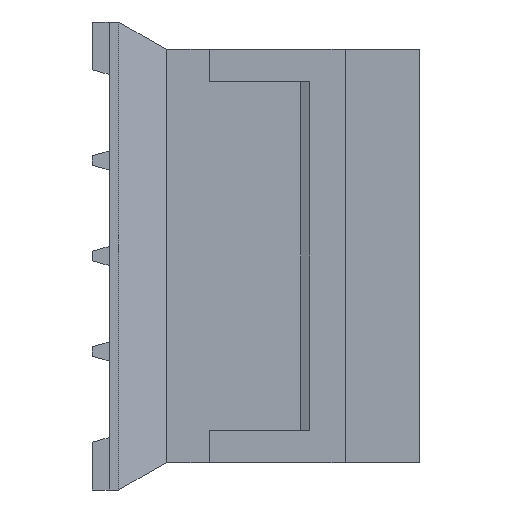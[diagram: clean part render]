
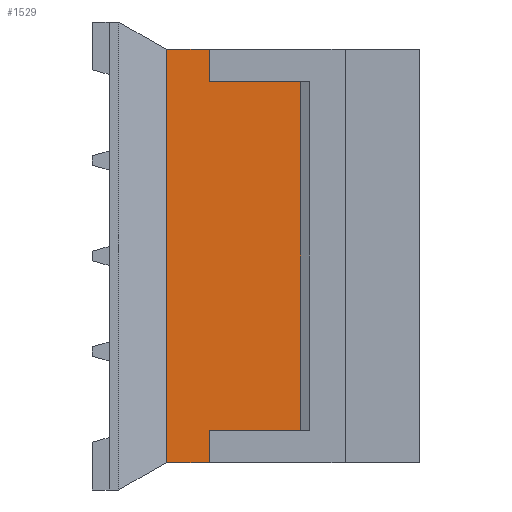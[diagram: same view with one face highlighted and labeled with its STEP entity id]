
A CAD part, left-side view. The second image highlights one B-rep face of the part: STEP entity #1529.
In plain terms, the highlighted planar face has unit normal (-1, 0, 0).
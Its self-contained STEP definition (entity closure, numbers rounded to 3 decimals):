
#209=DIRECTION('',(0.,0.,1.));
#210=VECTOR('',#209,8.65);
#211=CARTESIAN_POINT('',(0.,5.3,-9.225));
#212=LINE('',#211,#210);
#213=DIRECTION('',(0.,0.,1.));
#214=VECTOR('',#213,7.3);
#215=CARTESIAN_POINT('',(0.,2.488,-8.55));
#216=LINE('',#215,#214);
#221=DIRECTION('',(0.,1.,0.));
#222=VECTOR('',#221,1.912);
#223=CARTESIAN_POINT('',(0.,2.488,-1.25));
#224=LINE('',#223,#222);
#237=DIRECTION('',(0.,0.,1.));
#238=VECTOR('',#237,0.675);
#239=CARTESIAN_POINT('',(0.,4.4,-1.25));
#240=LINE('',#239,#238);
#253=DIRECTION('',(0.,1.,0.));
#254=VECTOR('',#253,0.9);
#255=CARTESIAN_POINT('',(0.,4.4,-0.575));
#256=LINE('',#255,#254);
#321=DIRECTION('',(0.,-1.,0.));
#322=VECTOR('',#321,0.9);
#323=CARTESIAN_POINT('',(0.,5.3,-9.225));
#324=LINE('',#323,#322);
#445=DIRECTION('',(0.,0.,1.));
#446=VECTOR('',#445,0.675);
#447=CARTESIAN_POINT('',(0.,4.4,-9.225));
#448=LINE('',#447,#446);
#457=DIRECTION('',(0.,-1.,0.));
#458=VECTOR('',#457,1.912);
#459=CARTESIAN_POINT('',(0.,4.4,-8.55));
#460=LINE('',#459,#458);
#797=CARTESIAN_POINT('',(0.,5.3,-0.575));
#798=VERTEX_POINT('',#797);
#967=CARTESIAN_POINT('',(0.,5.3,-9.225));
#968=VERTEX_POINT('',#967);
#969=CARTESIAN_POINT('',(0.,4.4,-8.55));
#970=CARTESIAN_POINT('',(0.,2.488,-8.55));
#971=VERTEX_POINT('',#969);
#972=VERTEX_POINT('',#970);
#973=CARTESIAN_POINT('',(0.,4.4,-9.225));
#974=VERTEX_POINT('',#973);
#975=CARTESIAN_POINT('',(0.,4.4,-0.575));
#976=VERTEX_POINT('',#975);
#977=CARTESIAN_POINT('',(0.,4.4,-1.25));
#978=VERTEX_POINT('',#977);
#979=CARTESIAN_POINT('',(0.,2.488,-1.25));
#980=VERTEX_POINT('',#979);
#1507=CARTESIAN_POINT('',(0.,3.894,-4.9));
#1508=DIRECTION('',(1.,0.,0.));
#1509=DIRECTION('',(0.,-1.,0.));
#1510=AXIS2_PLACEMENT_3D('',#1507,#1508,#1509);
#1511=PLANE('',#1510);
#1513=ORIENTED_EDGE('',*,*,#1512,.F.);
#1515=ORIENTED_EDGE('',*,*,#1514,.F.);
#1517=ORIENTED_EDGE('',*,*,#1516,.F.);
#1519=ORIENTED_EDGE('',*,*,#1518,.F.);
#1520=ORIENTED_EDGE('',*,*,#1498,.T.);
#1522=ORIENTED_EDGE('',*,*,#1521,.F.);
#1524=ORIENTED_EDGE('',*,*,#1523,.F.);
#1526=ORIENTED_EDGE('',*,*,#1525,.F.);
#1527=EDGE_LOOP('',(#1513,#1515,#1517,#1519,#1520,#1522,#1524,#1526));
#1528=FACE_OUTER_BOUND('',#1527,.F.);
#1498=EDGE_CURVE('',#968,#798,#212,.T.);
#1512=EDGE_CURVE('',#972,#980,#216,.T.);
#1514=EDGE_CURVE('',#971,#972,#460,.T.);
#1516=EDGE_CURVE('',#974,#971,#448,.T.);
#1518=EDGE_CURVE('',#968,#974,#324,.T.);
#1521=EDGE_CURVE('',#976,#798,#256,.T.);
#1523=EDGE_CURVE('',#978,#976,#240,.T.);
#1525=EDGE_CURVE('',#980,#978,#224,.T.);
#1529=ADVANCED_FACE('',(#1528),#1511,.F.);
